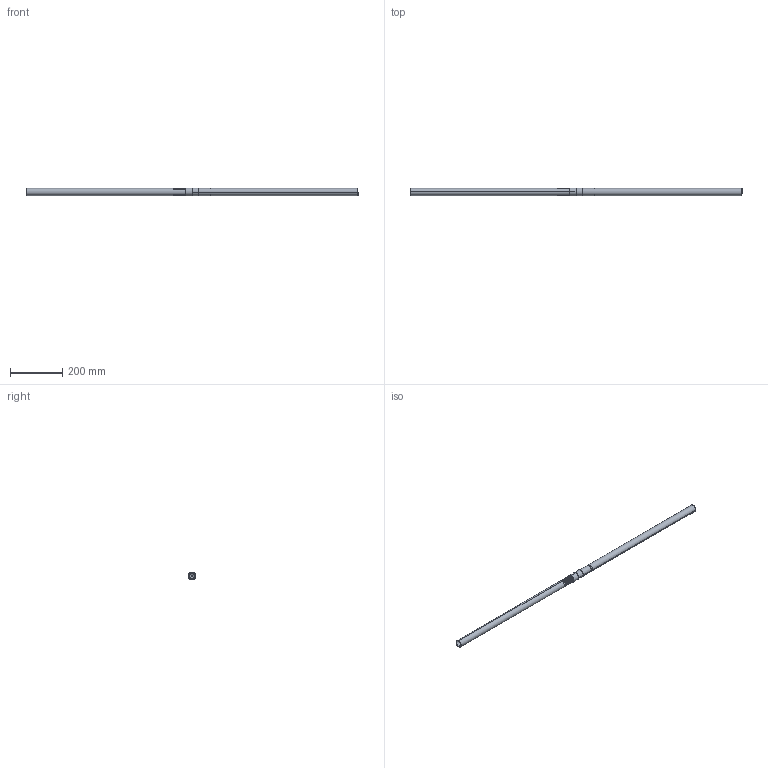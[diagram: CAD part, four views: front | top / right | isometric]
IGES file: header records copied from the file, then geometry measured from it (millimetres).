
Start section: SolidWorks IGES file using analytic representation for surfaces
Global section: file name: \\SERVER3\Design\_NEWDE~1\_DESIG~1\AAI\MODULA~1\SOLIDW~1\DEMONS~1\25DBF2~1.ASS\MODULA~1\235A3~1.COA\COAXIA~2\Threaded End Connector to Threaded End Connector Connection.IGS; native system: SolidWorks 2013; preprocessor: SolidWorks 2013; author: tbraun; date: 130819.130534; units: inch
Bounding box: 1270 x 28.57 x 28.57 mm (x, y, z)
Surface area: 227896.6 mm2 (no closed solid volume)
Topology: 0 solids, 0 shells, 487 faces, 6175 edges, 6172 vertices
Faces by surface type: revolution 333, bspline 154
